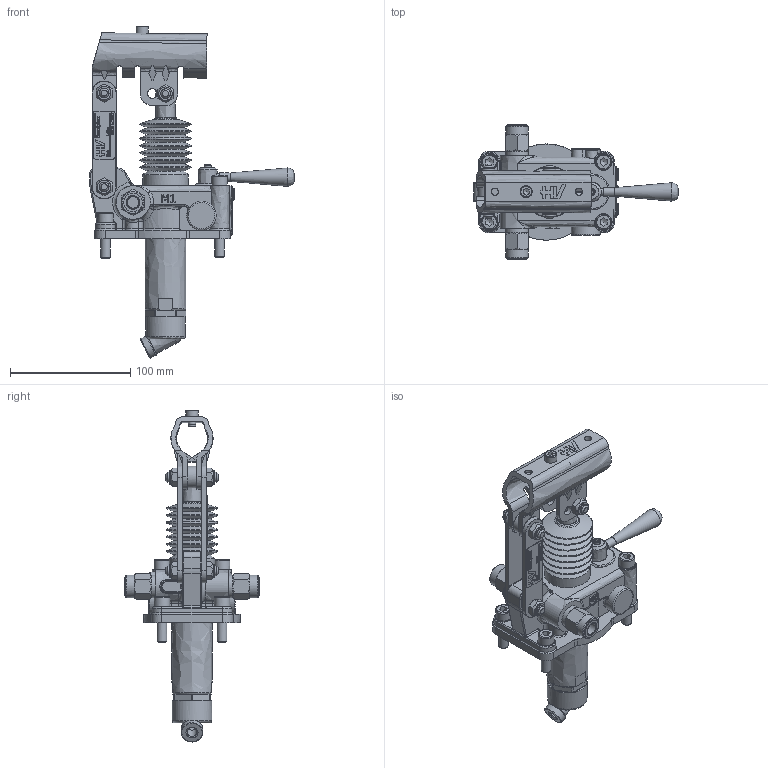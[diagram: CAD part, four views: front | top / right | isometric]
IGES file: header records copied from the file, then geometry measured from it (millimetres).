
Global section: file name: No Iges File Name specified; native system: Autodesk Inventor 2013; preprocessor: AutoDesk Inventor Iges Exporter R2013; author: christian.scardovi; date: 20240307.151140; units: millimetre
Bounding box: 170 x 112 x 276.08 mm (x, y, z)
Volume: 460425.4 mm3; surface area: 130310.8 mm2
Topology: 3 solids, 3 shells, 1699 faces, 4351 edges, 2760 vertices
Faces by surface type: bspline 1699
